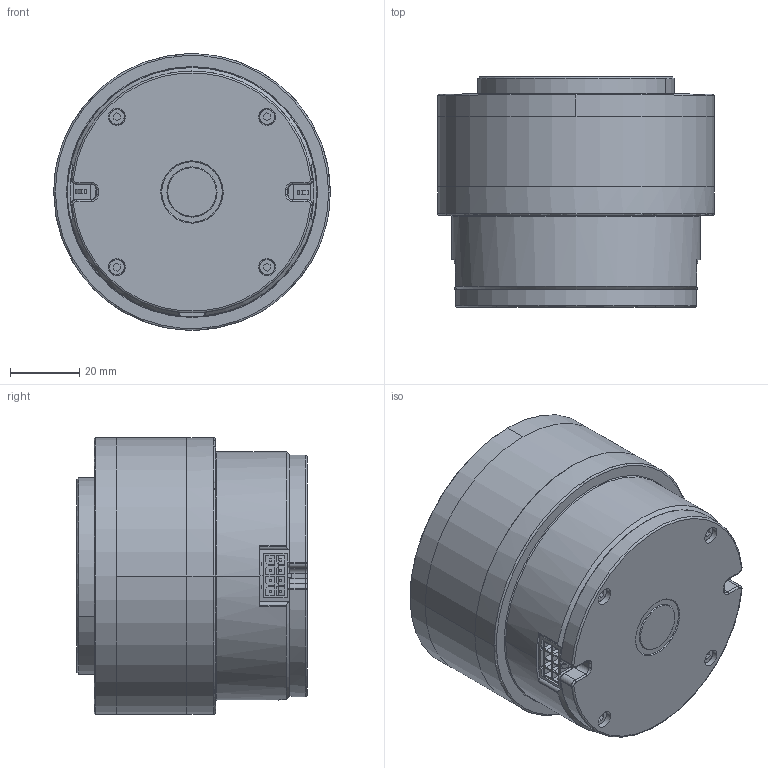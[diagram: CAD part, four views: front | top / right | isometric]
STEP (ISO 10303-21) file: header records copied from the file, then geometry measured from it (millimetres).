
FILE_DESCRIPTION (( 'STEP AP214' ), '1' );
FILE_NAME ('QDD-PR60-36_v2_2.STEP', '2019-06-06T10:22:20', ( 'Microsoft' ), ( 'Microsoft' ), 'SwSTEP 2.0', 'SolidWorks 2018', '' );
FILE_SCHEMA (( 'AUTOMOTIVE_DESIGN' ));
Length unit declared in the file: millimetre
Products named in the file (1): QDD-PR60-36_v2_2
Bounding box: 80 x 66.6 x 80 mm (x, y, z)
Volume: 285522.4 mm3; surface area: 74611.7 mm2
Topology: 25 solids, 25 shells, 1670 faces, 4242 edges, 2683 vertices
Faces by surface type: plane 1043, cylinder 382, cone 173, torus 70, bspline 2
Entity records: 71840 total; most frequent: CARTESIAN_POINT 12954, ORIENTED_EDGE 8396, DIRECTION 8078, EDGE_CURVE 4198, LINE 3024, VECTOR 3024, VERTEX_POINT 2683, AXIS2_PLACEMENT_3D 2527
